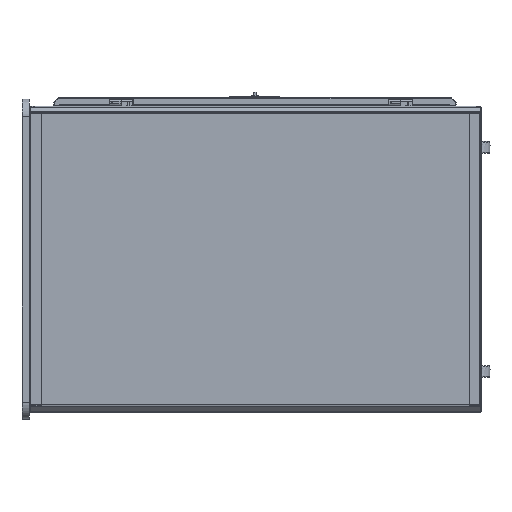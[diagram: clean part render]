
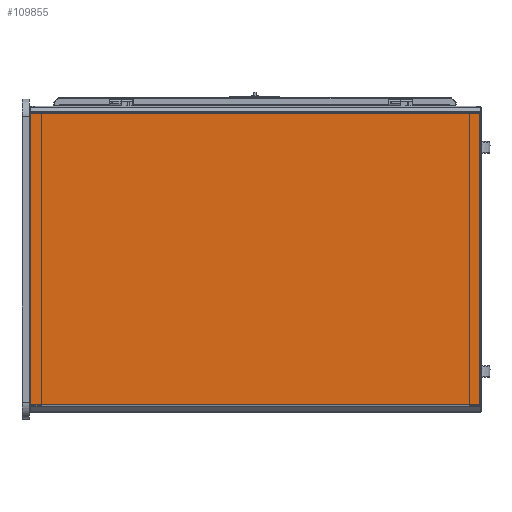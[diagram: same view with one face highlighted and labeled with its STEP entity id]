
A CAD part, left-side view. The second image highlights one B-rep face of the part: STEP entity #109855.
In plain terms, the highlighted planar face has unit normal (-1, 0, 0).
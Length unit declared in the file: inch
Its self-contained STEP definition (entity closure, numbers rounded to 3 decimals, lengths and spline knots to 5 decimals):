
#108608=DIRECTION('',(0.,-1.,0.));
#108609=VECTOR('',#108608,47.969);
#108610=CARTESIAN_POINT('',(-12.125,47.969,15.50859));
#108611=LINE('',#108610,#108609);
#108616=DIRECTION('',(0.,0.,-1.));
#108617=VECTOR('',#108616,31.01718);
#108618=CARTESIAN_POINT('',(-12.125,47.969,15.50859));
#108619=LINE('',#108618,#108617);
#108624=DIRECTION('',(0.,1.,0.));
#108625=VECTOR('',#108624,47.969);
#108626=CARTESIAN_POINT('',(-12.125,0.,-15.50859));
#108627=LINE('',#108626,#108625);
#109424=DIRECTION('',(0.,0.,-1.));
#109425=VECTOR('',#109424,31.01718);
#109426=CARTESIAN_POINT('',(-12.125,0.,15.50859));
#109427=LINE('',#109426,#109425);
#109578=CARTESIAN_POINT('',(-12.125,47.969,15.50859));
#109579=VERTEX_POINT('',#109578);
#109580=CARTESIAN_POINT('',(-12.125,0.,15.50859));
#109581=VERTEX_POINT('',#109580);
#109616=CARTESIAN_POINT('',(-12.125,47.969,-15.50859));
#109617=VERTEX_POINT('',#109616);
#109618=CARTESIAN_POINT('',(-12.125,0.,-15.50859));
#109619=VERTEX_POINT('',#109618);
#109841=CARTESIAN_POINT('',(-12.125,47.969,-15.50859));
#109842=DIRECTION('',(-1.,0.,0.));
#109843=DIRECTION('',(0.,0.,1.));
#109844=AXIS2_PLACEMENT_3D('',#109841,#109842,#109843);
#109845=PLANE('',#109844);
#109847=ORIENTED_EDGE('',*,*,#109846,.T.);
#109849=ORIENTED_EDGE('',*,*,#109848,.F.);
#109850=ORIENTED_EDGE('',*,*,#109831,.T.);
#109852=ORIENTED_EDGE('',*,*,#109851,.T.);
#109853=EDGE_LOOP('',(#109847,#109849,#109850,#109852));
#109854=FACE_OUTER_BOUND('',#109853,.F.);
#109855=ADVANCED_FACE('',(#109854),#109845,.T.);
#109831=EDGE_CURVE('',#109579,#109581,#108611,.T.);
#109846=EDGE_CURVE('',#109619,#109617,#108627,.T.);
#109848=EDGE_CURVE('',#109579,#109617,#108619,.T.);
#109851=EDGE_CURVE('',#109581,#109619,#109427,.T.);
